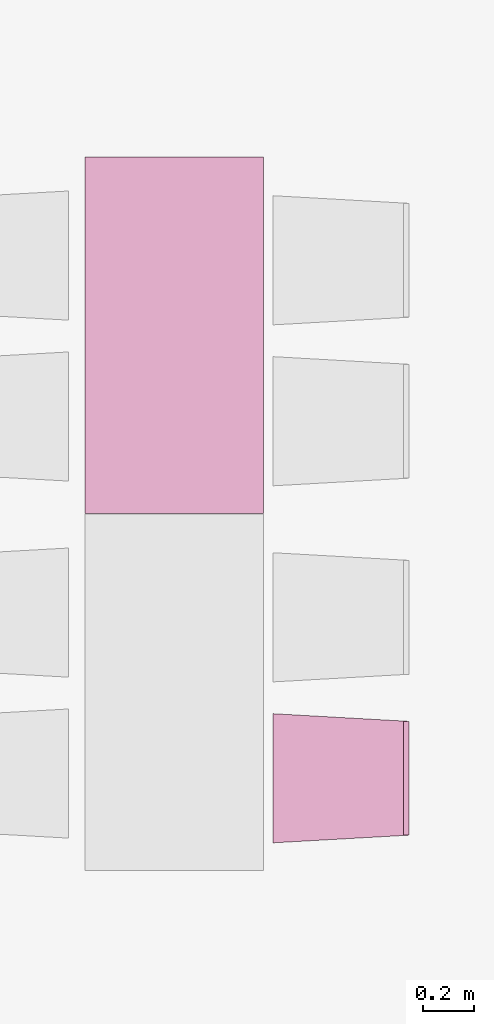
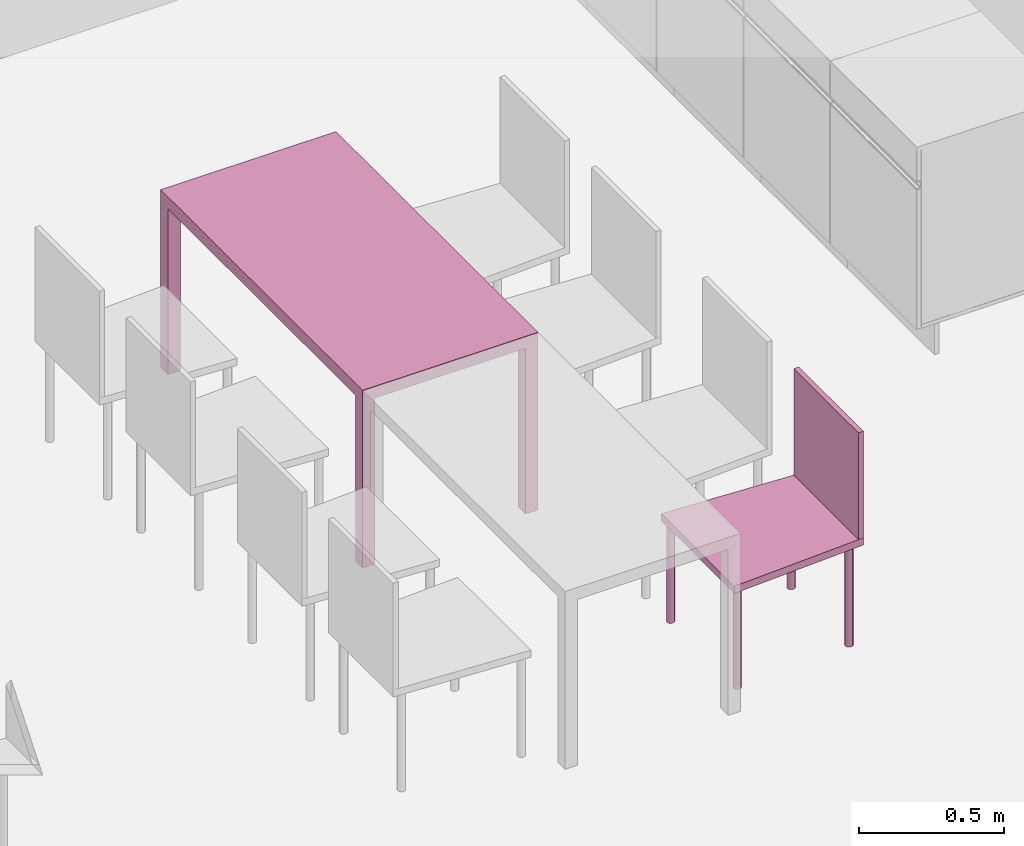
"""IFC4 building model written with IfcOpenShell, lengths in metres."""

from ifc_helpers import new_model, entity, si_unit, converted_unit, derived_unit, frame, origin, place, context, subcontext, project, spatial, faceted_brep, element, save


model = new_model("IFC4")

# Units and contexts
model_context = context("Model", 3, precision=1e-05, world=origin())
body_context = subcontext(model_context, "Body", "Model", "MODEL_VIEW")
ifc_project = project(units=[si_unit("LENGTHUNIT", "METRE"), si_unit("AREAUNIT", "SQUARE_METRE"), si_unit("VOLUMEUNIT", "CUBIC_METRE"), si_unit("MASSUNIT", "GRAM", prefix="KILO"), converted_unit("PLANEANGLEUNIT", "DEGREE", entity("IfcPlaneAngleMeasure", 0.0174532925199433), si_unit("PLANEANGLEUNIT", "RADIAN"), dimensions=[0, 0, 0, 0, 0, 0, 0]), derived_unit("THERMALTRANSMITTANCEUNIT", [(si_unit("POWERUNIT", "WATT"), 1), (si_unit("THERMODYNAMICTEMPERATUREUNIT", "KELVIN"), -1), (si_unit("LENGTHUNIT", "METRE"), -2)]), derived_unit("VOLUMETRICFLOWRATEUNIT", [(si_unit("LENGTHUNIT", "METRE"), 3), (converted_unit("TIMEUNIT", "hour", entity("IfcTimeMeasure", 3600.0), si_unit("TIMEUNIT", "SECOND"), dimensions=[0, 0, 1, 0, 0, 0, 0]), -1), (si_unit("LENGTHUNIT", "METRE"), -1)])], contexts=[model_context])

# Building, storeys
building_placement = place(None, origin())
building = spatial("IfcBuilding", under=ifc_project, at=building_placement, Name="HABITATGE PLURIFAMILIAR", CompositionType="ELEMENT")
storey_1_placement = place(building_placement, frame((0.0, 0.0, 3.35)))
storey_1 = spatial("IfcBuildingStorey", under=building, at=storey_1_placement, Name="PLANTA  ALTELL", CompositionType="ELEMENT", Elevation=3.35)
storey_2_placement = place(storey_1_placement, origin())
storey_2 = spatial("IfcBuildingStorey", under=storey_1, at=storey_2_placement, Name="NOU", CompositionType="PARTIAL")

# Furniture
furniture_1_placement = place(storey_2_placement, frame((403.951918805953, 20.1326455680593, 0.05)))
element("IfcFurniture", 1, at=furniture_1_placement, inside=storey_2, Name="Taula 140X80_PA", context=body_context, shape_type="Brep", body=[
    faceted_brep([(0.7, 0.0500000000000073, 0.0), (0.65, 0.0500000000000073, 0.0), (0.65, 0.0, 0.0), (0.7, 0.0, 0.0), (0.65, 0.0500000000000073, 0.7), (0.7, 0.0500000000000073, 0.7), (0.7, 0.0, 0.7), (0.65, 0.0, 0.7)], [[[0, 1, 2, 3]], [[4, 5, 6, 7]], [[1, 0, 5, 4]], [[2, 1, 4, 7]], [[3, 2, 7, 6]], [[0, 3, 6, 5]]], orient=[[False], [False], [False], [False], [False], [False]]),
    faceted_brep([(0.7, 1.39694592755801, 0.0), (0.65, 1.39694592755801, 0.0), (0.65, 1.34694592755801, 0.0), (0.7, 1.34694592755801, 0.0), (0.65, 1.39694592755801, 0.7), (0.7, 1.39694592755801, 0.7), (0.7, 1.34694592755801, 0.7), (0.65, 1.34694592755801, 0.7)], [[[0, 1, 2, 3]], [[4, 5, 6, 7]], [[1, 0, 5, 4]], [[2, 1, 4, 7]], [[3, 2, 7, 6]], [[0, 3, 6, 5]]], orient=[[False], [False], [False], [False], [False], [False]]),
    faceted_brep([(0.7, 1.396945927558, 0.7), (0.0, 1.396945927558, 0.7), (0.0, 0.0, 0.7), (0.7, 0.0, 0.7), (0.0, 1.396945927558, 0.75), (0.7, 1.396945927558, 0.75), (0.7, 0.0, 0.75), (0.0, 0.0, 0.75)], [[[0, 1, 2, 3]], [[4, 5, 6, 7]], [[1, 0, 5, 4]], [[2, 1, 4, 7]], [[3, 2, 7, 6]], [[0, 3, 6, 5]]], orient=[[False], [False], [False], [False], [False], [False]]),
    faceted_brep([(0.05, 0.05, 0.0), (0.0, 0.05, 0.0), (0.0, 0.0, 0.0), (0.05, 0.0, 0.0), (0.0, 0.05, 0.7), (0.05, 0.05, 0.7), (0.05, 0.0, 0.7), (0.0, 0.0, 0.7)], [[[0, 1, 2, 3]], [[4, 5, 6, 7]], [[1, 0, 5, 4]], [[2, 1, 4, 7]], [[3, 2, 7, 6]], [[0, 3, 6, 5]]], orient=[[False], [False], [False], [False], [False], [False]]),
    faceted_brep([(0.05, 1.396945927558, 0.0), (0.0, 1.396945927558, 0.0), (0.0, 1.346945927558, 0.0), (0.05, 1.346945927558, 0.0), (0.0, 1.396945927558, 0.7), (0.05, 1.396945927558, 0.7), (0.05, 1.346945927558, 0.7), (0.0, 1.346945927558, 0.7)], [[[0, 1, 2, 3]], [[4, 5, 6, 7]], [[1, 0, 5, 4]], [[2, 1, 4, 7]], [[3, 2, 7, 6]], [[0, 3, 6, 5]]], orient=[[False], [False], [False], [False], [False], [False]]),
])
furniture_2_placement = place(storey_2_placement, frame((404.689669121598, 18.8407290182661, 0.0499839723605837)))
element("IfcFurniture", 2, at=furniture_2_placement, inside=storey_2, Name="Cadira confident_PA", context=body_context, shape_type="Brep", body=[
    faceted_brep([(0.0250324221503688, 0.0391636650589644, 0.0), (0.0224394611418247, 0.0389254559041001, 0.0), (0.0199272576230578, 0.038240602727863, 0.0), (0.0175721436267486, 0.0371299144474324, 0.0), (0.0154456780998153, 0.0356271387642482, 0.0), (0.0136124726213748, 0.0337779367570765, 0.0), (0.0121282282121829, 0.0316384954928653, 0.0), (0.0110380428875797, 0.0292738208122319, 0.0), (0.010375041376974, 0.0267557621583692, 0.0), (0.0101593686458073, 0.0241608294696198, 0.0), (0.010397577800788, 0.0215678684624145, 0.0), (0.0110824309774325, 0.0190556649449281, 0.0), (0.0121931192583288, 0.0167005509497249, 0.0), (0.0136958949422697, 0.0145740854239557, 0.0), (0.0155450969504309, 0.0127408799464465, 0.0), (0.0176845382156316, 0.0112566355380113, 0.0), (0.0200492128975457, 0.010166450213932, 0.0), (0.0225672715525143, 0.00950344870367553, 0.0), (0.0251622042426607, 0.00928777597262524, 0.0), (0.0277551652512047, 0.00952598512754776, 0.0), (0.0302673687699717, 0.0102108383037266, 0.0), (0.0326224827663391, 0.0113215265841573, 0.0), (0.0347489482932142, 0.0128243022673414, 0.0), (0.0365821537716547, 0.0146735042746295, 0.0), (0.0380663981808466, 0.0168129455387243, 0.0), (0.0391565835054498, 0.019177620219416, 0.0), (0.0398195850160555, 0.0216956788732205, 0.0), (0.0400352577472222, 0.0242906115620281, 0.0), (0.0397970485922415, 0.0268835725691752, 0.0), (0.0391121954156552, 0.0293957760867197, 0.0), (0.0380015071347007, 0.0317508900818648, 0.0), (0.0364987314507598, 0.0338773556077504, 0.0), (0.0346495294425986, 0.0357105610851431, 0.0), (0.0325100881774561, 0.0371948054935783, 0.0), (0.030145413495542, 0.0382849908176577, 0.0), (0.0276273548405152, 0.0389479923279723, 0.0), (0.0250324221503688, 0.0391636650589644, 0.448281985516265), (0.0276273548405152, 0.0389479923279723, 0.448281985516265), (0.030145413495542, 0.0382849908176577, 0.448281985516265), (0.0325100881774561, 0.0371948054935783, 0.448281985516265), (0.0346495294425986, 0.0357105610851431, 0.448281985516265), (0.0364987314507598, 0.0338773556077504, 0.448281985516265), (0.0380015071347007, 0.0317508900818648, 0.448281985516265), (0.0391121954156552, 0.0293957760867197, 0.448281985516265), (0.0397970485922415, 0.0268835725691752, 0.448281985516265), (0.0400352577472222, 0.0242906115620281, 0.448281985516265), (0.0398195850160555, 0.0216956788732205, 0.448281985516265), (0.0391565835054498, 0.019177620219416, 0.448281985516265), (0.0380663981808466, 0.0168129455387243, 0.448281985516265), (0.0365821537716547, 0.0146735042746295, 0.448281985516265), (0.0347489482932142, 0.0128243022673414, 0.448281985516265), (0.0326224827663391, 0.0113215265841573, 0.448281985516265), (0.0302673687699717, 0.0102108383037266, 0.448281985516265), (0.0277551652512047, 0.00952598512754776, 0.448281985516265), (0.0251622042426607, 0.00928777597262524, 0.448281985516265), (0.0225672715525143, 0.00950344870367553, 0.448281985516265), (0.0200492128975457, 0.010166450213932, 0.448281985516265), (0.0176845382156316, 0.0112566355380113, 0.448281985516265), (0.0155450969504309, 0.0127408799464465, 0.448281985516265), (0.0136958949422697, 0.0145740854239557, 0.448281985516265), (0.0121931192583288, 0.0167005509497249, 0.448281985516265), (0.0110824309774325, 0.0190556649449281, 0.448281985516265), (0.010397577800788, 0.0215678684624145, 0.448281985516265), (0.0101593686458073, 0.0241608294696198, 0.448281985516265), (0.010375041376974, 0.0267557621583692, 0.448281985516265), (0.0110380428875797, 0.0292738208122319, 0.448281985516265), (0.0121282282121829, 0.0316384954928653, 0.448281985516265), (0.0136124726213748, 0.0337779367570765, 0.448281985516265), (0.0154456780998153, 0.0356271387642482, 0.448281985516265), (0.0175721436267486, 0.0371299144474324, 0.448281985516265), (0.0199272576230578, 0.038240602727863, 0.448281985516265), (0.0224394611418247, 0.0389254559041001, 0.448281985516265)], [[[0, 1, 2, 3, 4, 5, 6, 7, 8, 9, 10, 11, 12, 13, 14, 15, 16, 17, 18, 19, 20, 21, 22, 23, 24, 25, 26, 27, 28, 29, 30, 31, 32, 33, 34, 35]], [[36, 37, 38, 39, 40, 41, 42, 43, 44, 45, 46, 47, 48, 49, 50, 51, 52, 53, 54, 55, 56, 57, 58, 59, 60, 61, 62, 63, 64, 65, 66, 67, 68, 69, 70, 71]], [[35, 37, 36, 0]], [[34, 38, 37, 35]], [[33, 39, 38, 34]], [[32, 40, 39, 33]], [[31, 41, 40, 32]], [[30, 42, 41, 31]], [[29, 43, 42, 30]], [[28, 44, 43, 29]], [[27, 45, 44, 28]], [[26, 46, 45, 27]], [[25, 47, 46, 26]], [[24, 48, 47, 25]], [[23, 49, 48, 24]], [[22, 50, 49, 23]], [[21, 51, 50, 22]], [[20, 52, 51, 21]], [[19, 53, 52, 20]], [[18, 54, 53, 19]], [[17, 55, 54, 18]], [[16, 56, 55, 17]], [[15, 57, 56, 16]], [[14, 58, 57, 15]], [[13, 59, 58, 14]], [[12, 60, 59, 13]], [[11, 61, 60, 12]], [[10, 62, 61, 11]], [[9, 63, 62, 10]], [[8, 64, 63, 9]], [[7, 65, 64, 8]], [[6, 66, 65, 7]], [[5, 67, 66, 6]], [[4, 68, 67, 5]], [[3, 69, 68, 4]], [[2, 70, 69, 3]], [[1, 71, 70, 2]], [[0, 36, 71, 1]]], orient=[[False], [False], [False], [False], [False], [False], [False], [False], [False], [False], [False], [False], [False], [False], [False], [False], [False], [False], [False], [False], [False], [False], [False], [False], [False], [False], [False], [False], [False], [False], [False], [False], [False], [False], [False], [False], [False], [False]]),
    faceted_brep([(0.487439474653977, 0.0668016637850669, 0.0), (0.484846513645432, 0.0665634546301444, 0.0), (0.482334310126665, 0.0658786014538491, 0.0), (0.479979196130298, 0.0647679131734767, 0.0), (0.477852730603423, 0.0632651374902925, 0.0), (0.476019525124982, 0.0614159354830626, 0.0), (0.474535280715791, 0.0592764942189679, 0.0), (0.473445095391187, 0.056911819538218, 0.0), (0.472782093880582, 0.0543937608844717, 0.0), (0.472566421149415, 0.0517988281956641, 0.0), (0.472804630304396, 0.0492058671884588, 0.0), (0.473489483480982, 0.0466936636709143, 0.0), (0.474600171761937, 0.0443385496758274, 0.0), (0.476102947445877, 0.0422120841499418, 0.0), (0.477952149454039, 0.0403788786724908, 0.0), (0.480091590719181, 0.0388946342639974, 0.0), (0.482456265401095, 0.0378044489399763, 0.0), (0.484974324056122, 0.0371414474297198, 0.0), (0.487569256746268, 0.0369257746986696, 0.0), (0.490162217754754, 0.0371639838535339, 0.0), (0.492674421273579, 0.0378488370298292, 0.0), (0.495029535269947, 0.0389595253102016, 0.0), (0.497156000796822, 0.0404623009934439, 0.0), (0.498989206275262, 0.0423115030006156, 0.0), (0.500473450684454, 0.0444509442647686, 0.0), (0.501563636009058, 0.0468156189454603, 0.0), (0.502226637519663, 0.0493336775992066, 0.0), (0.50244231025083, 0.0519286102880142, 0.0), (0.502204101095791, 0.0545215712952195, 0.0), (0.501519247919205, 0.057033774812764, 0.0), (0.500408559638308, 0.0593888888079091, 0.0), (0.498905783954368, 0.0615153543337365, 0.0), (0.497056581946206, 0.0633485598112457, 0.0), (0.494917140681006, 0.0648328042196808, 0.0), (0.492552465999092, 0.065922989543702, 0.0), (0.490034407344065, 0.0665859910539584, 0.0), (0.487439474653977, 0.0668016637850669, 0.448281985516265), (0.490034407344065, 0.0665859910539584, 0.448281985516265), (0.492552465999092, 0.065922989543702, 0.448281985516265), (0.494917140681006, 0.0648328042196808, 0.448281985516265), (0.497056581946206, 0.0633485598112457, 0.448281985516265), (0.498905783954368, 0.0615153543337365, 0.448281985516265), (0.500408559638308, 0.0593888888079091, 0.448281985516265), (0.501519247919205, 0.057033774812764, 0.448281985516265), (0.502204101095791, 0.0545215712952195, 0.448281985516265), (0.50244231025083, 0.0519286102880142, 0.448281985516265), (0.502226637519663, 0.0493336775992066, 0.448281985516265), (0.501563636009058, 0.0468156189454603, 0.448281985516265), (0.500473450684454, 0.0444509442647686, 0.448281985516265), (0.498989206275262, 0.0423115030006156, 0.448281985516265), (0.497156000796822, 0.0404623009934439, 0.448281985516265), (0.495029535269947, 0.0389595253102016, 0.448281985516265), (0.492674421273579, 0.0378488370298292, 0.448281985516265), (0.490162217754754, 0.0371639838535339, 0.448281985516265), (0.487569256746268, 0.0369257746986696, 0.448281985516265), (0.484974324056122, 0.0371414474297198, 0.448281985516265), (0.482456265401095, 0.0378044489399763, 0.448281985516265), (0.480091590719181, 0.0388946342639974, 0.448281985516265), (0.477952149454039, 0.0403788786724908, 0.448281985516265), (0.476102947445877, 0.0422120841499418, 0.448281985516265), (0.474600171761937, 0.0443385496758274, 0.448281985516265), (0.473489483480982, 0.0466936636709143, 0.448281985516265), (0.472804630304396, 0.0492058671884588, 0.448281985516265), (0.472566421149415, 0.0517988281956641, 0.448281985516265), (0.472782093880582, 0.0543937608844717, 0.448281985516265), (0.473445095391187, 0.056911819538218, 0.448281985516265), (0.474535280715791, 0.0592764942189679, 0.448281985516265), (0.476019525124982, 0.0614159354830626, 0.448281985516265), (0.477852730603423, 0.0632651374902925, 0.448281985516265), (0.479979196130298, 0.0647679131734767, 0.448281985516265), (0.482334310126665, 0.0658786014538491, 0.448281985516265), (0.484846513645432, 0.0665634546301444, 0.448281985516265)], [[[0, 1, 2, 3, 4, 5, 6, 7, 8, 9, 10, 11, 12, 13, 14, 15, 16, 17, 18, 19, 20, 21, 22, 23, 24, 25, 26, 27, 28, 29, 30, 31, 32, 33, 34, 35]], [[36, 37, 38, 39, 40, 41, 42, 43, 44, 45, 46, 47, 48, 49, 50, 51, 52, 53, 54, 55, 56, 57, 58, 59, 60, 61, 62, 63, 64, 65, 66, 67, 68, 69, 70, 71]], [[35, 37, 36, 0]], [[34, 38, 37, 35]], [[33, 39, 38, 34]], [[32, 40, 39, 33]], [[31, 41, 40, 32]], [[30, 42, 41, 31]], [[29, 43, 42, 30]], [[28, 44, 43, 29]], [[27, 45, 44, 28]], [[26, 46, 45, 27]], [[25, 47, 46, 26]], [[24, 48, 47, 25]], [[23, 49, 48, 24]], [[22, 50, 49, 23]], [[21, 51, 50, 22]], [[20, 52, 51, 21]], [[19, 53, 52, 20]], [[18, 54, 53, 19]], [[17, 55, 54, 18]], [[16, 56, 55, 17]], [[15, 57, 56, 16]], [[14, 58, 57, 15]], [[13, 59, 58, 14]], [[12, 60, 59, 13]], [[11, 61, 60, 12]], [[10, 62, 61, 11]], [[9, 63, 62, 10]], [[8, 64, 63, 9]], [[7, 65, 64, 8]], [[6, 66, 65, 7]], [[5, 67, 66, 6]], [[4, 68, 67, 5]], [[3, 69, 68, 4]], [[2, 70, 69, 3]], [[1, 71, 70, 2]], [[0, 36, 71, 1]]], orient=[[False], [False], [False], [False], [False], [False], [False], [False], [False], [False], [False], [False], [False], [False], [False], [False], [False], [False], [False], [False], [False], [False], [False], [False], [False], [False], [False], [False], [False], [False], [False], [False], [False], [False], [False], [False], [False], [False]]),
    faceted_brep([(0.0250324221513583, 0.499163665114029, 0.0), (0.0224394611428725, 0.498925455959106, 0.0), (0.0199272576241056, 0.498240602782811, 0.0), (0.0175721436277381, 0.497129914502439, 0.0), (0.0154456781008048, 0.495627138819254, 0.0), (0.0136124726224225, 0.493777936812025, 0.0), (0.0121282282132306, 0.491638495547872, 0.0), (0.0110380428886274, 0.489273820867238, 0.0), (0.0103750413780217, 0.486755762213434, 0.0), (0.0101593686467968, 0.484160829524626, 0.0), (0.0103975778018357, 0.481567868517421, 0.0), (0.0110824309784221, 0.479055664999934, 0.0), (0.0121931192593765, 0.476700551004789, 0.0), (0.0136958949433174, 0.474574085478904, 0.0), (0.0155450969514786, 0.472740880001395, 0.0), (0.0176845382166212, 0.471256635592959, 0.0), (0.0200492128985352, 0.470166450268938, 0.0), (0.022567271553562, 0.469503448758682, 0.0), (0.0251622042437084, 0.469287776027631, 0.0), (0.0277551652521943, 0.469525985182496, 0.0), (0.0302673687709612, 0.470210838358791, 0.0), (0.0326224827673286, 0.471321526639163, 0.0), (0.0347489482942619, 0.472824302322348, 0.0), (0.0365821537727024, 0.474673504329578, 0.0), (0.0380663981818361, 0.476812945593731, 0.0), (0.0391565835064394, 0.479177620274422, 0.0), (0.039819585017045, 0.481695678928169, 0.0), (0.0400352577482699, 0.484290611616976, 0.0), (0.039797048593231, 0.486883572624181, 0.0), (0.0391121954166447, 0.489395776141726, 0.0), (0.0380015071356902, 0.491750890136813, 0.0), (0.0364987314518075, 0.493877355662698, 0.0), (0.0346495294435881, 0.495710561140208, 0.0), (0.0325100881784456, 0.497194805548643, 0.0), (0.0301454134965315, 0.498284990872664, 0.0), (0.0276273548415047, 0.49894799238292, 0.0), (0.0250324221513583, 0.499163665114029, 0.448281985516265), (0.0276273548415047, 0.49894799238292, 0.448281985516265), (0.0301454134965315, 0.498284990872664, 0.448281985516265), (0.0325100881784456, 0.497194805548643, 0.448281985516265), (0.0346495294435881, 0.495710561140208, 0.448281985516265), (0.0364987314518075, 0.493877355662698, 0.448281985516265), (0.0380015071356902, 0.491750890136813, 0.448281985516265), (0.0391121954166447, 0.489395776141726, 0.448281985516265), (0.039797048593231, 0.486883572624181, 0.448281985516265), (0.0400352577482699, 0.484290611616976, 0.448281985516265), (0.039819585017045, 0.481695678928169, 0.448281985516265), (0.0391565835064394, 0.479177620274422, 0.448281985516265), (0.0380663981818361, 0.476812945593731, 0.448281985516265), (0.0365821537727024, 0.474673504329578, 0.448281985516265), (0.0347489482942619, 0.472824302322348, 0.448281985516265), (0.0326224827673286, 0.471321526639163, 0.448281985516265), (0.0302673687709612, 0.470210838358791, 0.448281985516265), (0.0277551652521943, 0.469525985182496, 0.448281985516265), (0.0251622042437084, 0.469287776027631, 0.448281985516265), (0.022567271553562, 0.469503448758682, 0.448281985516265), (0.0200492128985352, 0.470166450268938, 0.448281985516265), (0.0176845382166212, 0.471256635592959, 0.448281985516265), (0.0155450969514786, 0.472740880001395, 0.448281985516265), (0.0136958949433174, 0.474574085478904, 0.448281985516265), (0.0121931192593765, 0.476700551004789, 0.448281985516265), (0.0110824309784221, 0.479055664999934, 0.448281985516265), (0.0103975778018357, 0.481567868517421, 0.448281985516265), (0.0101593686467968, 0.484160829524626, 0.448281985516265), (0.0103750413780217, 0.486755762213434, 0.448281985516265), (0.0110380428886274, 0.489273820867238, 0.448281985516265), (0.0121282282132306, 0.491638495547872, 0.448281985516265), (0.0136124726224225, 0.493777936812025, 0.448281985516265), (0.0154456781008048, 0.495627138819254, 0.448281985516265), (0.0175721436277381, 0.497129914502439, 0.448281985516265), (0.0199272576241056, 0.498240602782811, 0.448281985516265), (0.0224394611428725, 0.498925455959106, 0.448281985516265)], [[[0, 1, 2, 3, 4, 5, 6, 7, 8, 9, 10, 11, 12, 13, 14, 15, 16, 17, 18, 19, 20, 21, 22, 23, 24, 25, 26, 27, 28, 29, 30, 31, 32, 33, 34, 35]], [[36, 37, 38, 39, 40, 41, 42, 43, 44, 45, 46, 47, 48, 49, 50, 51, 52, 53, 54, 55, 56, 57, 58, 59, 60, 61, 62, 63, 64, 65, 66, 67, 68, 69, 70, 71]], [[35, 37, 36, 0]], [[34, 38, 37, 35]], [[33, 39, 38, 34]], [[32, 40, 39, 33]], [[31, 41, 40, 32]], [[30, 42, 41, 31]], [[29, 43, 42, 30]], [[28, 44, 43, 29]], [[27, 45, 44, 28]], [[26, 46, 45, 27]], [[25, 47, 46, 26]], [[24, 48, 47, 25]], [[23, 49, 48, 24]], [[22, 50, 49, 23]], [[21, 51, 50, 22]], [[20, 52, 51, 21]], [[19, 53, 52, 20]], [[18, 54, 53, 19]], [[17, 55, 54, 18]], [[16, 56, 55, 17]], [[15, 57, 56, 16]], [[14, 58, 57, 15]], [[13, 59, 58, 14]], [[12, 60, 59, 13]], [[11, 61, 60, 12]], [[10, 62, 61, 11]], [[9, 63, 62, 10]], [[8, 64, 63, 9]], [[7, 65, 64, 8]], [[6, 66, 65, 7]], [[5, 67, 66, 6]], [[4, 68, 67, 5]], [[3, 69, 68, 4]], [[2, 70, 69, 3]], [[1, 71, 70, 2]], [[0, 36, 71, 1]]], orient=[[False], [False], [False], [False], [False], [False], [False], [False], [False], [False], [False], [False], [False], [False], [False], [False], [False], [False], [False], [False], [False], [False], [False], [False], [False], [False], [False], [False], [False], [False], [False], [False], [False], [False], [False], [False], [False], [False]]),
    faceted_brep([(0.48743947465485, 0.466801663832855, 0.0), (0.484846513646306, 0.466563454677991, 0.0), (0.482334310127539, 0.465878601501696, 0.0), (0.479979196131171, 0.464767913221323, 0.0), (0.477852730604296, 0.463265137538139, 0.0), (0.476019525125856, 0.461415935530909, 0.0), (0.474535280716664, 0.459276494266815, 0.0), (0.47344509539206, 0.456911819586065, 0.0), (0.472782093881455, 0.454393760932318, 0.0), (0.472566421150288, 0.451798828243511, 0.0), (0.472804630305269, 0.449205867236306, 0.0), (0.473489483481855, 0.446693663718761, 0.0), (0.47460017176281, 0.444338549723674, 0.0), (0.47610294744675, 0.442212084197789, 0.0), (0.477952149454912, 0.440378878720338, 0.0), (0.480091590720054, 0.438894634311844, 0.0), (0.482456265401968, 0.437804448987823, 0.0), (0.484974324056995, 0.437141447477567, 0.0), (0.487569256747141, 0.436925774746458, 0.0), (0.490162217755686, 0.437163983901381, 0.0), (0.492674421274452, 0.437848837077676, 0.0), (0.495029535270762, 0.438959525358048, 0.0), (0.497156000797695, 0.440462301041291, 0.0), (0.498989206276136, 0.442311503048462, 0.0), (0.500473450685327, 0.444450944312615, 0.0), (0.501563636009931, 0.446815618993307, 0.0), (0.502226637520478, 0.449333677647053, 0.0), (0.502442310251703, 0.451928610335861, 0.0), (0.502204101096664, 0.454521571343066, 0.0), (0.501519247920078, 0.457033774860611, 0.0), (0.500408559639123, 0.459388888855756, 0.0), (0.498905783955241, 0.461515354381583, 0.0), (0.497056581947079, 0.463348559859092, 0.0), (0.494917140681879, 0.464832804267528, 0.0), (0.492552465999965, 0.465922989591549, 0.0), (0.490034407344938, 0.466585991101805, 0.0), (0.48743947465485, 0.466801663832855, 0.448281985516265), (0.490034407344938, 0.466585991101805, 0.448281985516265), (0.492552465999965, 0.465922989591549, 0.448281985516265), (0.494917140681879, 0.464832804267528, 0.448281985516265), (0.497056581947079, 0.463348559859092, 0.448281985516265), (0.498905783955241, 0.461515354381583, 0.448281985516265), (0.500408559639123, 0.459388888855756, 0.448281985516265), (0.501519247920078, 0.457033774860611, 0.448281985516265), (0.502204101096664, 0.454521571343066, 0.448281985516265), (0.502442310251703, 0.451928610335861, 0.448281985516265), (0.502226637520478, 0.449333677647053, 0.448281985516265), (0.501563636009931, 0.446815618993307, 0.448281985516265), (0.500473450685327, 0.444450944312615, 0.448281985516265), (0.498989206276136, 0.442311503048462, 0.448281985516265), (0.497156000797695, 0.440462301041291, 0.448281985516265), (0.495029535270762, 0.438959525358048, 0.448281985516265), (0.492674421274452, 0.437848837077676, 0.448281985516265), (0.490162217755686, 0.437163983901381, 0.448281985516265), (0.487569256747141, 0.436925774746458, 0.448281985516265), (0.484974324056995, 0.437141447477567, 0.448281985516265), (0.482456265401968, 0.437804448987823, 0.448281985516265), (0.480091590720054, 0.438894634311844, 0.448281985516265), (0.477952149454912, 0.440378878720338, 0.448281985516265), (0.47610294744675, 0.442212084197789, 0.448281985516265), (0.47460017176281, 0.444338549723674, 0.448281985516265), (0.473489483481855, 0.446693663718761, 0.448281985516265), (0.472804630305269, 0.449205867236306, 0.448281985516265), (0.472566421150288, 0.451798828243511, 0.448281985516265), (0.472782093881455, 0.454393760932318, 0.448281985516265), (0.47344509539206, 0.456911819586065, 0.448281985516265), (0.474535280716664, 0.459276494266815, 0.448281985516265), (0.476019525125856, 0.461415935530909, 0.448281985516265), (0.477852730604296, 0.463265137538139, 0.448281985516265), (0.479979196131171, 0.464767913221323, 0.448281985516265), (0.482334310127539, 0.465878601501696, 0.448281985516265), (0.484846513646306, 0.466563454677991, 0.448281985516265)], [[[0, 1, 2, 3, 4, 5, 6, 7, 8, 9, 10, 11, 12, 13, 14, 15, 16, 17, 18, 19, 20, 21, 22, 23, 24, 25, 26, 27, 28, 29, 30, 31, 32, 33, 34, 35]], [[36, 37, 38, 39, 40, 41, 42, 43, 44, 45, 46, 47, 48, 49, 50, 51, 52, 53, 54, 55, 56, 57, 58, 59, 60, 61, 62, 63, 64, 65, 66, 67, 68, 69, 70, 71]], [[35, 37, 36, 0]], [[34, 38, 37, 35]], [[33, 39, 38, 34]], [[32, 40, 39, 33]], [[31, 41, 40, 32]], [[30, 42, 41, 31]], [[29, 43, 42, 30]], [[28, 44, 43, 29]], [[27, 45, 44, 28]], [[26, 46, 45, 27]], [[25, 47, 46, 26]], [[24, 48, 47, 25]], [[23, 49, 48, 24]], [[22, 50, 49, 23]], [[21, 51, 50, 22]], [[20, 52, 51, 21]], [[19, 53, 52, 20]], [[18, 54, 53, 19]], [[17, 55, 54, 18]], [[16, 56, 55, 17]], [[15, 57, 56, 16]], [[14, 58, 57, 15]], [[13, 59, 58, 14]], [[12, 60, 59, 13]], [[11, 61, 60, 12]], [[10, 62, 61, 11]], [[9, 63, 62, 10]], [[8, 64, 63, 9]], [[7, 65, 64, 8]], [[6, 66, 65, 7]], [[5, 67, 66, 6]], [[4, 68, 67, 5]], [[3, 69, 68, 4]], [[2, 70, 69, 3]], [[1, 71, 70, 2]], [[0, 36, 71, 1]]], orient=[[False], [False], [False], [False], [False], [False], [False], [False], [False], [False], [False], [False], [False], [False], [False], [False], [False], [False], [False], [False], [False], [False], [False], [False], [False], [False], [False], [False], [False], [False], [False], [False], [False], [False], [False], [False], [False], [False]]),
    faceted_brep([(0.532607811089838, 0.476514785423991, 0.418281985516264), (0.0, 0.506514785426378, 0.418281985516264), (0.0, 0.0, 0.418281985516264), (0.532607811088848, 0.0300000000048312, 0.418281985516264), (0.0, 0.506514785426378, 0.448281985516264), (0.532607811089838, 0.476514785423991, 0.448281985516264), (0.532607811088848, 0.0300000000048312, 0.448281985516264), (0.0, 0.0, 0.448281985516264)], [[[0, 1, 2, 3]], [[4, 5, 6, 7]], [[1, 0, 5, 4]], [[2, 1, 4, 7]], [[3, 2, 7, 6]], [[0, 3, 6, 5]]], orient=[[False], [False], [False], [False], [False], [False]]),
    faceted_brep([(0.512607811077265, 0.476514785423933, 0.448281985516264), (0.512607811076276, 0.0300000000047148, 0.448281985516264), (0.53260781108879, 0.0300000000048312, 0.448281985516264), (0.53260781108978, 0.476514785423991, 0.448281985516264), (0.512607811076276, 0.0300000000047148, 0.898281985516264), (0.512607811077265, 0.476514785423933, 0.898281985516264), (0.53260781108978, 0.476514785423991, 0.898281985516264), (0.53260781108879, 0.0300000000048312, 0.898281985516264)], [[[0, 1, 2, 3]], [[4, 5, 6, 7]], [[1, 0, 5, 4]], [[2, 1, 4, 7]], [[3, 2, 7, 6]], [[0, 3, 6, 5]]], orient=[[False], [False], [False], [False], [False], [False]]),
])

save(model, "model.ifc")
